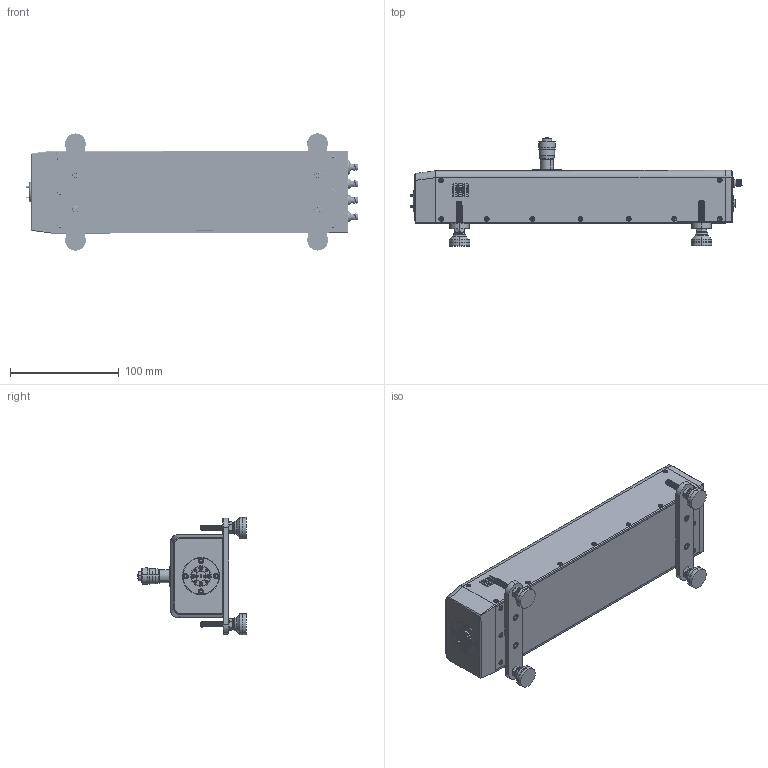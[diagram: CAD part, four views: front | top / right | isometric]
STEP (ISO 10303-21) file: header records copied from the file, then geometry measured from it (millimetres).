
FILE_DESCRIPTION (( 'STEP AP214' ), '1' );
FILE_NAME ('TO-SE-A-M, Defeatured.STEP', '2023-06-29T00:06:30', ( '' ), ( '' ), 'SwSTEP 2.0', 'SolidWorks 2021', '' );
FILE_SCHEMA (( 'AUTOMOTIVE_DESIGN' ));
Length unit declared in the file: inch
Products named in the file (1): TO-SE-A-M, Defeatured
Bounding box: 305.75 x 99.79 x 108.07 mm (x, y, z)
Volume: 1097190.6 mm3; surface area: 169933.7 mm2
Topology: 51 solids, 68 shells, 2553 faces, 6201 edges, 3883 vertices
Faces by surface type: cylinder 972, plane 932, cone 590, bspline 35, sphere 16, torus 8
Entity records: 114527 total; most frequent: CARTESIAN_POINT 46385, ORIENTED_EDGE 12130, DIRECTION 11630, EDGE_CURVE 6065, AXIS2_PLACEMENT_3D 4524, VERTEX_POINT 3859, EDGE_LOOP 2850, LINE 2582
